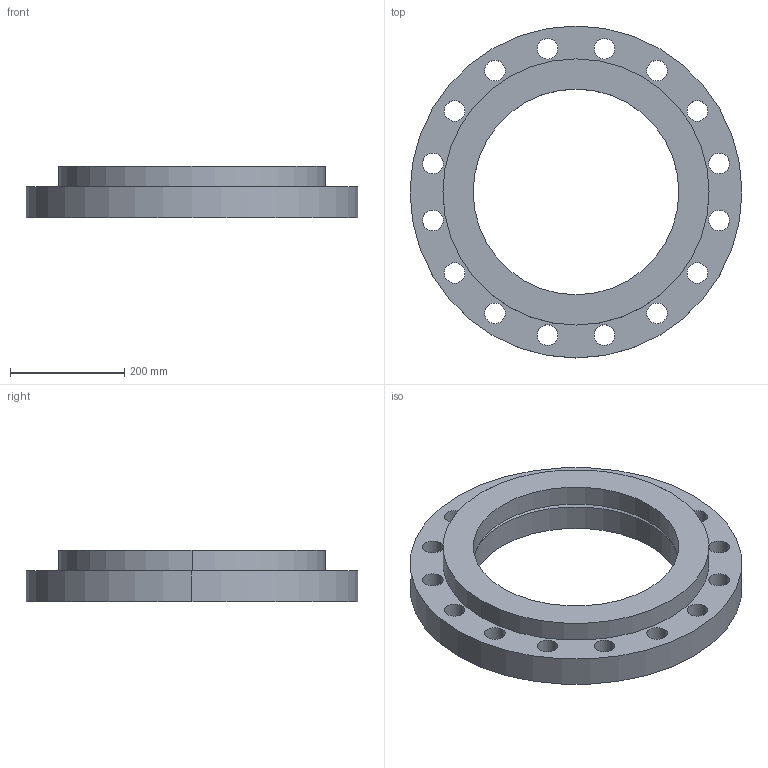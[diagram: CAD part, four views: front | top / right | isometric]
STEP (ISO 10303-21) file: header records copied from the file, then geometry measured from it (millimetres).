
FILE_DESCRIPTION (( 'STEP AP214' ), '1' );
FILE_NAME ('PN40 DN350 Type 02 in 32 - (Type A Face).STEP', '2019-01-05T21:58:07', ( '' ), ( '' ), 'SwSTEP 2.0', 'SolidWorks 2019', '' );
FILE_SCHEMA (( 'AUTOMOTIVE_DESIGN' ));
Length unit declared in the file: millimetre
Products named in the file (1): PN40 DN350 Type 02 in 32 - (Type A Face)
Bounding box: 580 x 580 x 90 mm (x, y, z)
Volume: 10159717.7 mm3; surface area: 769199.8 mm2
Topology: 2 solids, 2 shells, 46 faces, 124 edges, 82 vertices
Faces by surface type: cylinder 40, plane 4, cone 2
Entity records: 1609 total; most frequent: DIRECTION 300, CARTESIAN_POINT 253, ORIENTED_EDGE 248, AXIS2_PLACEMENT_3D 129, EDGE_CURVE 124, CIRCLE 82, VERTEX_POINT 82, EDGE_LOOP 82
